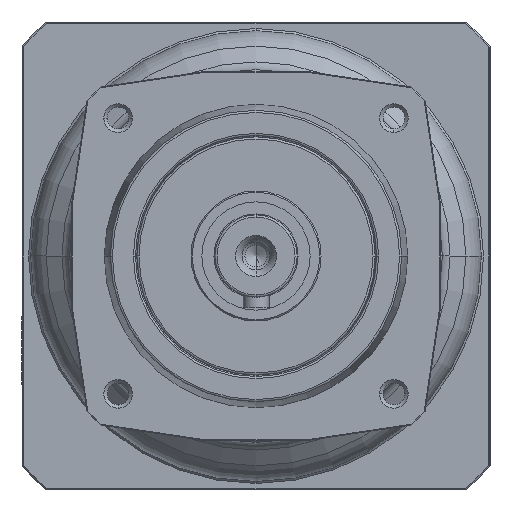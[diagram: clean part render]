
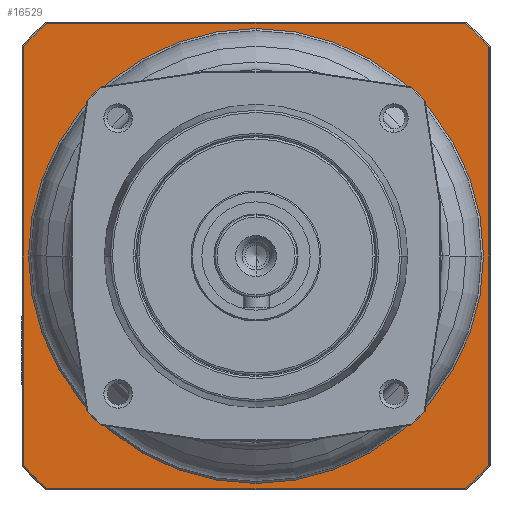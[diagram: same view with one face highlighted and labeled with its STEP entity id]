
A CAD part, left-side view. The second image highlights one B-rep face of the part: STEP entity #16529.
In plain terms, the highlighted planar face has unit normal (-1, 0, 0) as drawn and (0, 0, -1) by its records, which use the part's own axes.
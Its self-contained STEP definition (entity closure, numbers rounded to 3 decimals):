
#15423=CARTESIAN_POINT('',(0.,0.,
2.5));
#15424=DIRECTION('',(0.,0.,-1.));
#15425=DIRECTION('',(0.,-1.,0.));
#15426=AXIS2_PLACEMENT_3D('',#15423,#15424,#15425);
#15428=CARTESIAN_POINT('',(0.,0.,2.5));
#15429=DIRECTION('',(0.,0.,-1.));
#15430=DIRECTION('',(0.,1.,0.));
#15431=AXIS2_PLACEMENT_3D('',#15428,#15429,#15430);
#15433=CARTESIAN_POINT('',(0.,0.,2.5));
#15434=DIRECTION('',(0.,0.,1.));
#15435=DIRECTION('',(-0.744,-0.668,0.));
#15436=AXIS2_PLACEMENT_3D('',#15433,#15434,#15435);
#15438=DIRECTION('',(1.,0.,0.));
#15439=VECTOR('',#15438,96.523);
#15440=CARTESIAN_POINT('',(-48.261,-53.7,
2.5));
#15441=LINE('',#15440,#15439);
#15442=CARTESIAN_POINT('',(0.,0.,2.5));
#15443=DIRECTION('',(0.,0.,1.));
#15444=DIRECTION('',(0.668,-0.744,0.));
#15445=AXIS2_PLACEMENT_3D('',#15442,#15443,#15444);
#15447=DIRECTION('',(0.,1.,0.));
#15448=VECTOR('',#15447,96.523);
#15449=CARTESIAN_POINT('',(53.7,-48.261,
2.5));
#15450=LINE('',#15449,#15448);
#15451=CARTESIAN_POINT('',(0.,0.,2.5));
#15452=DIRECTION('',(0.,0.,1.));
#15453=DIRECTION('',(0.744,0.668,0.));
#15454=AXIS2_PLACEMENT_3D('',#15451,#15452,#15453);
#15456=DIRECTION('',(-1.,0.,0.));
#15457=VECTOR('',#15456,96.523);
#15458=CARTESIAN_POINT('',(48.261,53.7,2.5));
#15459=LINE('',#15458,#15457);
#15460=CARTESIAN_POINT('',(0.,0.,2.5));
#15461=DIRECTION('',(0.,0.,1.));
#15462=DIRECTION('',(-0.668,0.744,0.));
#15463=AXIS2_PLACEMENT_3D('',#15460,#15461,#15462);
#15465=DIRECTION('',(0.,-1.,0.));
#15466=VECTOR('',#15465,96.523);
#15467=CARTESIAN_POINT('',(-53.7,48.261,
2.5));
#15468=LINE('',#15467,#15466);
#16186=CARTESIAN_POINT('',(0.,-52.5,2.5));
#16187=CARTESIAN_POINT('',(0.,52.5,
2.5));
#16188=VERTEX_POINT('',#16186);
#16189=VERTEX_POINT('',#16187);
#16258=CARTESIAN_POINT('',(-53.7,-48.261,2.5));
#16259=CARTESIAN_POINT('',(-48.261,-53.7,2.5));
#16260=VERTEX_POINT('',#16258);
#16261=VERTEX_POINT('',#16259);
#16266=CARTESIAN_POINT('',(48.261,-53.7,
2.5));
#16267=VERTEX_POINT('',#16266);
#16270=CARTESIAN_POINT('',(53.7,-48.261,2.5));
#16271=VERTEX_POINT('',#16270);
#16274=CARTESIAN_POINT('',(53.7,48.261,2.5));
#16275=VERTEX_POINT('',#16274);
#16278=CARTESIAN_POINT('',(48.261,53.7,2.5));
#16279=VERTEX_POINT('',#16278);
#16282=CARTESIAN_POINT('',(-48.261,53.7,
2.5));
#16283=VERTEX_POINT('',#16282);
#16288=CARTESIAN_POINT('',(-53.7,48.261,2.5));
#16289=VERTEX_POINT('',#16288);
#16501=CARTESIAN_POINT('',(0.,0.,2.5));
#16502=DIRECTION('',(0.,0.,1.));
#16503=DIRECTION('',(0.,1.,0.));
#16504=AXIS2_PLACEMENT_3D('',#16501,#16502,#16503);
#16505=PLANE('',#16504);
#16507=ORIENTED_EDGE('',*,*,#16506,.T.);
#16509=ORIENTED_EDGE('',*,*,#16508,.T.);
#16511=ORIENTED_EDGE('',*,*,#16510,.T.);
#16513=ORIENTED_EDGE('',*,*,#16512,.T.);
#16515=ORIENTED_EDGE('',*,*,#16514,.T.);
#16517=ORIENTED_EDGE('',*,*,#16516,.T.);
#16519=ORIENTED_EDGE('',*,*,#16518,.T.);
#16521=ORIENTED_EDGE('',*,*,#16520,.T.);
#16522=EDGE_LOOP('',(#16507,#16509,#16511,#16513,#16515,#16517,#16519,#16521));
#16523=FACE_OUTER_BOUND('',#16522,.F.);
#16525=ORIENTED_EDGE('',*,*,#16524,.T.);
#16526=ORIENTED_EDGE('',*,*,#16491,.T.);
#16527=EDGE_LOOP('',(#16525,#16526));
#16528=FACE_BOUND('',#16527,.F.);
#16529=ADVANCED_FACE('',(#16523,#16528),#16505,.F.);
#15427=CIRCLE('',#15426,52.5);
#15432=CIRCLE('',#15431,52.5);
#15437=CIRCLE('',#15436,72.2);
#15446=CIRCLE('',#15445,72.2);
#15455=CIRCLE('',#15454,72.2);
#15464=CIRCLE('',#15463,72.2);
#16491=EDGE_CURVE('',#16189,#16188,#15432,.T.);
#16506=EDGE_CURVE('',#16260,#16261,#15437,.T.);
#16508=EDGE_CURVE('',#16261,#16267,#15441,.T.);
#16510=EDGE_CURVE('',#16267,#16271,#15446,.T.);
#16512=EDGE_CURVE('',#16271,#16275,#15450,.T.);
#16514=EDGE_CURVE('',#16275,#16279,#15455,.T.);
#16516=EDGE_CURVE('',#16279,#16283,#15459,.T.);
#16518=EDGE_CURVE('',#16283,#16289,#15464,.T.);
#16520=EDGE_CURVE('',#16289,#16260,#15468,.T.);
#16524=EDGE_CURVE('',#16188,#16189,#15427,.T.);
